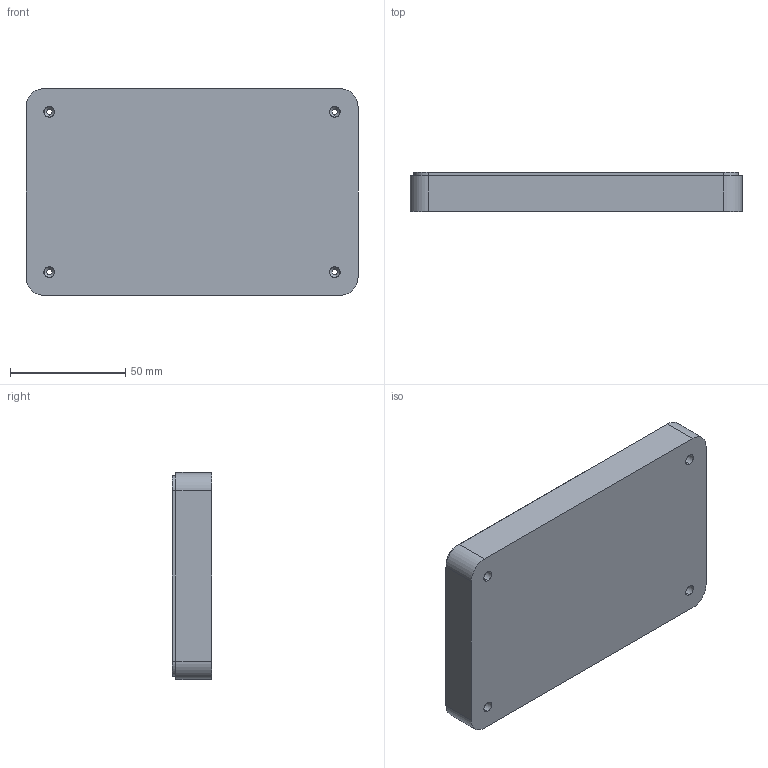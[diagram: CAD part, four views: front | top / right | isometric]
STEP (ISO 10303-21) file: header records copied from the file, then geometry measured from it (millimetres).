
FILE_DESCRIPTION (( 'STEP AP214' ), '1' );
FILE_NAME ('Cos PP81.STEP', '2018-01-19T09:38:49', ( 'aaa' ), ( '' ), 'SwSTEP 2.0', 'SolidWorks 2013', '' );
FILE_SCHEMA (( 'AUTOMOTIVE_DESIGN' ));
Length unit declared in the file: millimetre
Products named in the file (1): Cos PP81
Bounding box: 144 x 17 x 89.8 mm (x, y, z)
Volume: 51939.6 mm3; surface area: 42162.1 mm2
Topology: 1 solids, 1 shells, 110 faces, 244 edges, 160 vertices
Faces by surface type: cylinder 64, plane 38, cone 8
Entity records: 3150 total; most frequent: DIRECTION 602, CARTESIAN_POINT 515, ORIENTED_EDGE 488, AXIS2_PLACEMENT_3D 247, EDGE_CURVE 244, VERTEX_POINT 160, EDGE_LOOP 142, CIRCLE 136
